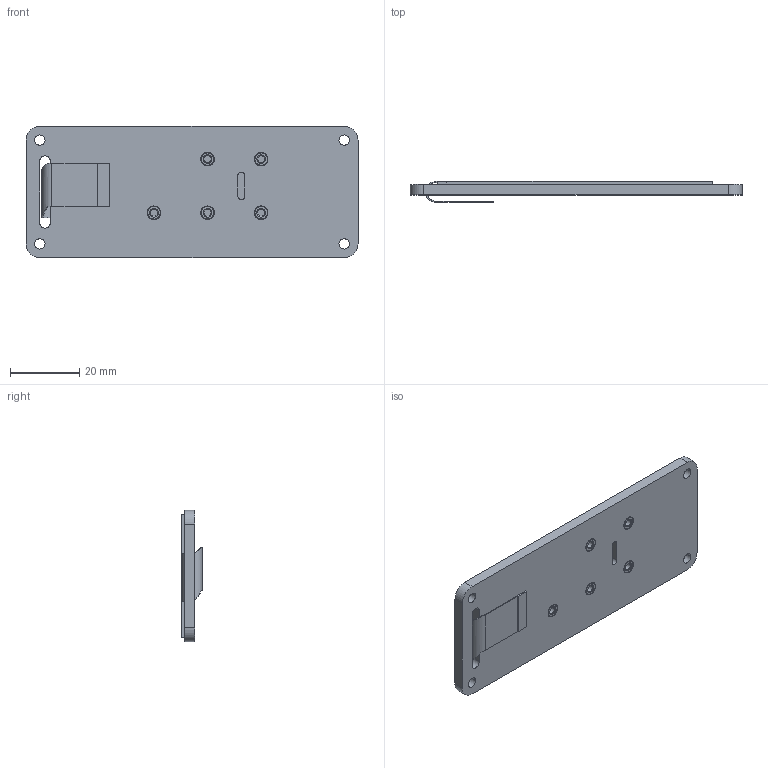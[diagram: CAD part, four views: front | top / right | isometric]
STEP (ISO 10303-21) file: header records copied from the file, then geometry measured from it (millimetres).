
FILE_DESCRIPTION (( 'STEP AP214' ), '1' );
FILE_NAME ('EP2290QS.STEP', '2026-07-06T07:09:34', ( '' ), ( '' ), 'SwSTEP 2.0', 'SolidWorks 2008', '' );
FILE_SCHEMA (( 'AUTOMOTIVE_DESIGN' ));
Length unit declared in the file: millimetre
Products named in the file (4): plate-E2290QS0F2; E2290QS0F2; EP2290QS; BN_1036_1385496
Assembly tree (7 placements, depth 2):
  EP2290QS
    BN_1036_1385496  x5
    E2290QS0F2
    plate-E2290QS0F2
Bounding box: 96 x 6.1 x 38 mm (x, y, z)
Volume: 14052.1 mm3; surface area: 20922.5 mm2
Topology: 9 solids, 9 shells, 1142 faces, 3224 edges, 2140 vertices
Faces by surface type: cylinder 910, plane 210, cone 20, bspline 2
Entity records: 15299 total; most frequent: DIRECTION 2376, CARTESIAN_POINT 2310, ORIENTED_EDGE 2208, EDGE_CURVE 1104, AXIS2_PLACEMENT_3D 858, VERTEX_POINT 732, VECTOR 660, LINE 660
